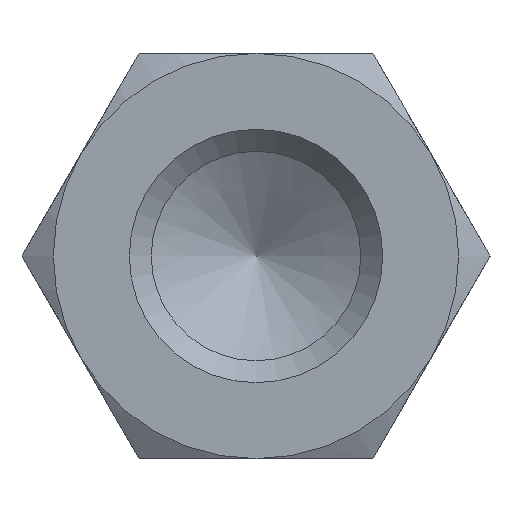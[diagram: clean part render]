
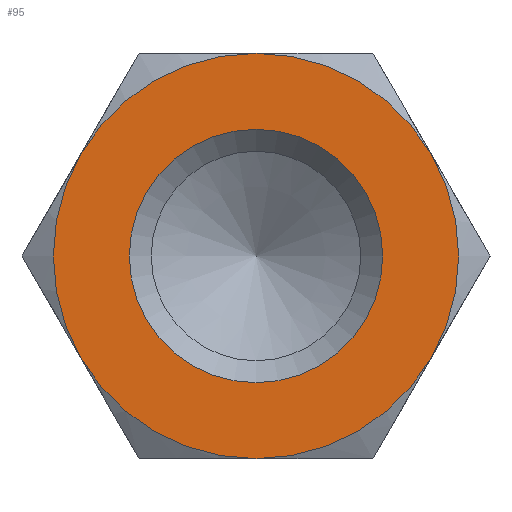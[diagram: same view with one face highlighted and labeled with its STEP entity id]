
A CAD part, left-side view. The second image highlights one B-rep face of the part: STEP entity #95.
In plain terms, the highlighted planar face has unit normal (-1, 0, 0).
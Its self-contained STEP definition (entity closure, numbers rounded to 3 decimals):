
#95 = ADVANCED_FACE( '', ( #147, #148 ), #149, .F. );
#147 = FACE_OUTER_BOUND( '', #206, .T. );
#148 = FACE_BOUND( '', #207, .T. );
#149 = PLANE( '', #208 );
#206 = EDGE_LOOP( '', ( #356, #357, #358, #359, #360, #361 ) );
#207 = EDGE_LOOP( '', ( #362 ) );
#208 = AXIS2_PLACEMENT_3D( '', #363, #364, #365 );
#356 = ORIENTED_EDGE( '', *, *, #440, .F. );
#357 = ORIENTED_EDGE( '', *, *, #425, .F. );
#358 = ORIENTED_EDGE( '', *, *, #441, .F. );
#359 = ORIENTED_EDGE( '', *, *, #437, .F. );
#360 = ORIENTED_EDGE( '', *, *, #442, .F. );
#361 = ORIENTED_EDGE( '', *, *, #443, .F. );
#362 = ORIENTED_EDGE( '', *, *, #439, .T. );
#363 = CARTESIAN_POINT( '', ( -25., 0., 0. ) );
#364 = DIRECTION( '', ( 1., 0., 0. ) );
#365 = DIRECTION( '', ( 0., 0., -1. ) );
#425 = EDGE_CURVE( '', #495, #493, #497, .T. );
#437 = EDGE_CURVE( '', #447, #506, #513, .T. );
#439 = EDGE_CURVE( '', #516, #516, #517, .T. );
#440 = EDGE_CURVE( '', #493, #486, #518, .T. );
#441 = EDGE_CURVE( '', #506, #495, #519, .T. );
#442 = EDGE_CURVE( '', #481, #447, #520, .T. );
#443 = EDGE_CURVE( '', #486, #481, #521, .T. );
#447 = VERTEX_POINT( '', #525 );
#481 = VERTEX_POINT( '', #595 );
#486 = VERTEX_POINT( '', #611 );
#493 = VERTEX_POINT( '', #632 );
#495 = VERTEX_POINT( '', #637 );
#497 = CIRCLE( '', #644, 4. );
#506 = VERTEX_POINT( '', #670 );
#513 = CIRCLE( '', #701, 4. );
#516 = VERTEX_POINT( '', #704 );
#517 = CIRCLE( '', #705, 2.5 );
#518 = CIRCLE( '', #706, 4. );
#519 = CIRCLE( '', #707, 4. );
#520 = CIRCLE( '', #708, 4. );
#521 = CIRCLE( '', #709, 4. );
#525 = CARTESIAN_POINT( '', ( -25., -3.464, 2. ) );
#595 = CARTESIAN_POINT( '', ( -25., 0., 4. ) );
#611 = CARTESIAN_POINT( '', ( -25., 3.464, 2. ) );
#632 = CARTESIAN_POINT( '', ( -25., 3.464, -2. ) );
#637 = CARTESIAN_POINT( '', ( -25., 0., -4. ) );
#644 = AXIS2_PLACEMENT_3D( '', #744, #745, #746 );
#670 = CARTESIAN_POINT( '', ( -25., -3.464, -2. ) );
#701 = AXIS2_PLACEMENT_3D( '', #749, #750, #751 );
#704 = CARTESIAN_POINT( '', ( -25., 2.5, 0. ) );
#705 = AXIS2_PLACEMENT_3D( '', #755, #756, #757 );
#706 = AXIS2_PLACEMENT_3D( '', #758, #759, #760 );
#707 = AXIS2_PLACEMENT_3D( '', #761, #762, #763 );
#708 = AXIS2_PLACEMENT_3D( '', #764, #765, #766 );
#709 = AXIS2_PLACEMENT_3D( '', #767, #768, #769 );
#744 = CARTESIAN_POINT( '', ( -25., 0., 0. ) );
#745 = DIRECTION( '', ( 1., 0., 0. ) );
#746 = DIRECTION( '', ( 0., 0., -1. ) );
#749 = CARTESIAN_POINT( '', ( -25., 0., 0. ) );
#750 = DIRECTION( '', ( 1., 0., 0. ) );
#751 = DIRECTION( '', ( 0., 0., -1. ) );
#755 = CARTESIAN_POINT( '', ( -25., 0., 0. ) );
#756 = DIRECTION( '', ( 1., 0., 0. ) );
#757 = DIRECTION( '', ( 0., 1., 0. ) );
#758 = CARTESIAN_POINT( '', ( -25., 0., 0. ) );
#759 = DIRECTION( '', ( 1., 0., 0. ) );
#760 = DIRECTION( '', ( 0., 0., -1. ) );
#761 = CARTESIAN_POINT( '', ( -25., 0., 0. ) );
#762 = DIRECTION( '', ( 1., 0., 0. ) );
#763 = DIRECTION( '', ( 0., 0., -1. ) );
#764 = CARTESIAN_POINT( '', ( -25., 0., 0. ) );
#765 = DIRECTION( '', ( 1., 0., 0. ) );
#766 = DIRECTION( '', ( 0., 0., -1. ) );
#767 = CARTESIAN_POINT( '', ( -25., 0., 0. ) );
#768 = DIRECTION( '', ( 1., 0., 0. ) );
#769 = DIRECTION( '', ( 0., 0., -1. ) );
